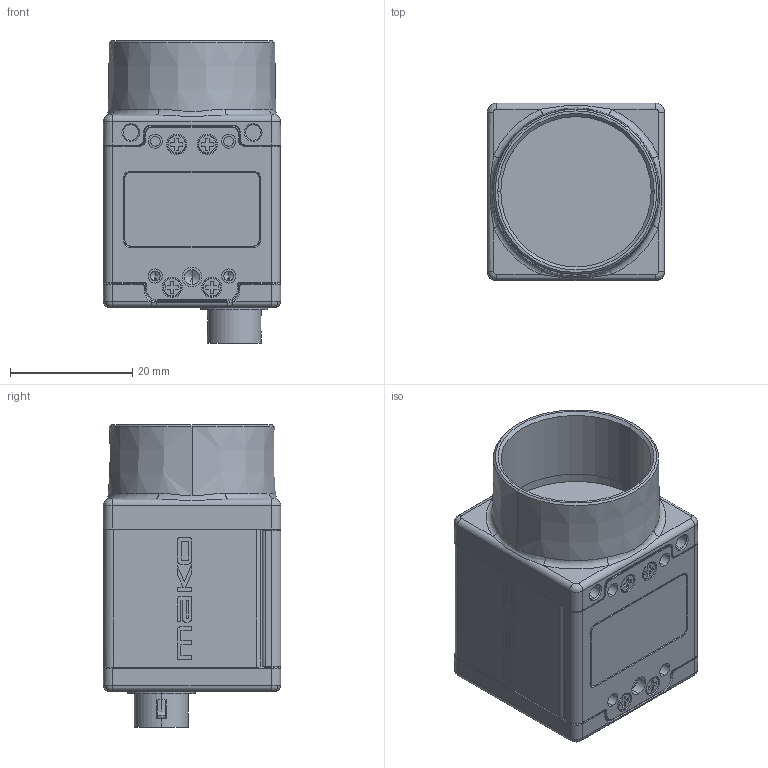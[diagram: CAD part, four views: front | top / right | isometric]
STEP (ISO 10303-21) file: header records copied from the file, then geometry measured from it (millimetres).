
FILE_DESCRIPTION (( 'STEP AP214' ), '1' );
FILE_NAME ('3D-Mako-U.STEP', '2015-11-11T16:43:31', ( '' ), ( '' ), 'SwSTEP 2.0', 'SolidWorks 2014', '' );
FILE_SCHEMA (( 'AUTOMOTIVE_DESIGN' ));
Length unit declared in the file: millimetre
Products named in the file (1): 3D-Mako-U
Bounding box: 29 x 29 x 49.45 mm (x, y, z)
Volume: 24936.7 mm3; surface area: 11943.5 mm2
Topology: 13 solids, 13 shells, 1855 faces, 4920 edges, 3175 vertices
Faces by surface type: plane 1011, cylinder 485, bspline 180, cone 96, torus 83
Entity records: 73641 total; most frequent: CARTESIAN_POINT 20775, ORIENTED_EDGE 9818, DIRECTION 8804, EDGE_CURVE 4909, VERTEX_POINT 3175, VECTOR 3086, LINE 3086, AXIS2_PLACEMENT_3D 2859
